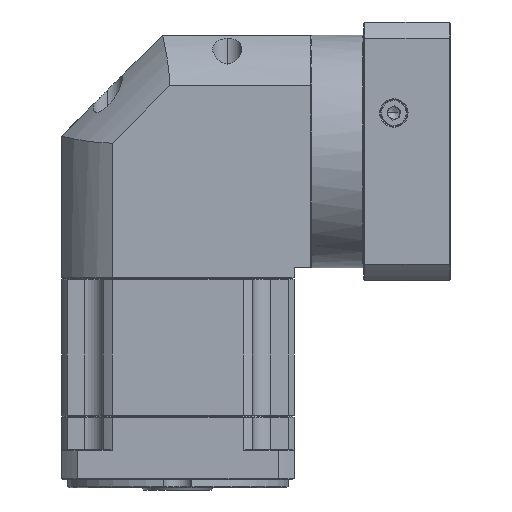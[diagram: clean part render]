
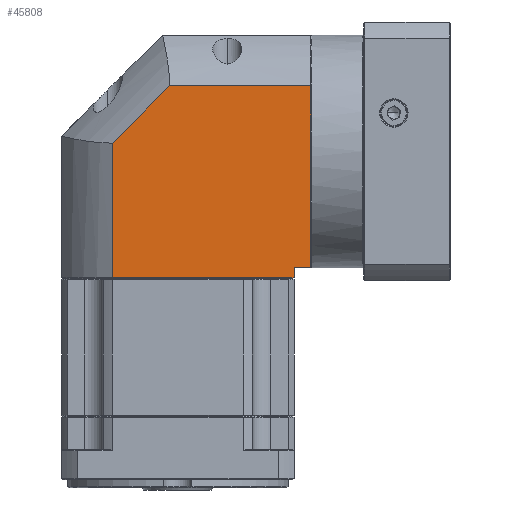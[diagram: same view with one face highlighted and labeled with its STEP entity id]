
A CAD part, front view. The second image highlights one B-rep face of the part: STEP entity #45808.
In plain terms, the highlighted planar face has unit normal (0, -1, 0).
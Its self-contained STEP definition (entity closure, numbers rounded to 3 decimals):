
#639 = DIRECTION ( 'NONE',  ( -1., 0., 0. ) ) ;
#656 = CARTESIAN_POINT ( 'NONE',  ( 89.513, -3.918, -58.454 ) ) ;
#1076 = EDGE_LOOP ( 'NONE', ( #61395, #128727, #119360, #108844, #80821, #32642, #26331 ) ) ;
#5827 = DIRECTION ( 'NONE',  ( 0.707, 0., 0.707 ) ) ;
#6359 = VECTOR ( 'NONE', #9987, 1000. ) ;
#6615 = AXIS2_PLACEMENT_3D ( 'NONE', #127625, #25261, #35049 ) ;
#7408 = VECTOR ( 'NONE', #100441, 1000. ) ;
#7446 = DIRECTION ( 'NONE',  ( 1., 0., 0. ) ) ;
#9987 = DIRECTION ( 'NONE',  ( 0., 0., 1. ) ) ;
#19416 = CARTESIAN_POINT ( 'NONE',  ( -0.387, -3.918, -69.954 ) ) ;
#25261 = DIRECTION ( 'NONE',  ( 0., 1., 0. ) ) ;
#26331 = ORIENTED_EDGE ( 'NONE', *, *, #119976, .F. ) ;
#31566 = EDGE_CURVE ( 'NONE', #74852, #56359, #36732, .T. ) ;
#32642 = ORIENTED_EDGE ( 'NONE', *, *, #31566, .F. ) ;
#34956 = VECTOR ( 'NONE', #7446, 1000. ) ;
#35049 = DIRECTION ( 'NONE',  ( 1., 0., 0. ) ) ;
#35138 = LINE ( 'NONE', #109955, #108590 ) ;
#36732 = LINE ( 'NONE', #19416, #6359 ) ;
#44761 = DIRECTION ( 'NONE',  ( 0., 0., -1. ) ) ;
#45808 = ADVANCED_FACE ( 'NONE', ( #47804 ), #66288, .F. ) ;
#47334 = LINE ( 'NONE', #79905, #7408 ) ;
#47804 = FACE_OUTER_BOUND ( 'NONE', #1076, .T. ) ;
#56359 = VERTEX_POINT ( 'NONE', #127306 ) ;
#58134 = VECTOR ( 'NONE', #44761, 1000. ) ;
#60237 = EDGE_CURVE ( 'NONE', #56359, #110628, #61673, .T. ) ;
#61395 = ORIENTED_EDGE ( 'NONE', *, *, #121670, .F. ) ;
#61673 = LINE ( 'NONE', #107555, #69609 ) ;
#66288 = PLANE ( 'NONE',  #6615 ) ;
#67818 = LINE ( 'NONE', #75131, #58134 ) ;
#69609 = VECTOR ( 'NONE', #5827, 1000. ) ;
#74852 = VERTEX_POINT ( 'NONE', #125040 ) ;
#75131 = CARTESIAN_POINT ( 'NONE',  ( 97.913, -3.918, -69.954 ) ) ;
#76729 = LINE ( 'NONE', #91896, #118192 ) ;
#76878 = VERTEX_POINT ( 'NONE', #88951 ) ;
#76998 = EDGE_CURVE ( 'NONE', #114834, #76878, #67818, .T. ) ;
#79905 = CARTESIAN_POINT ( 'NONE',  ( -25.487, -3.918, -63.454 ) ) ;
#80821 = ORIENTED_EDGE ( 'NONE', *, *, #60237, .F. ) ;
#82491 = DIRECTION ( 'NONE',  ( 0., 0., -1. ) ) ;
#88951 = CARTESIAN_POINT ( 'NONE',  ( 97.913, -3.918, -58.454 ) ) ;
#91896 = CARTESIAN_POINT ( 'NONE',  ( 89.513, -3.918, -69.954 ) ) ;
#93953 = LINE ( 'NONE', #130416, #34956 ) ;
#94286 = EDGE_CURVE ( 'NONE', #110628, #114834, #93953, .T. ) ;
#98994 = VERTEX_POINT ( 'NONE', #656 ) ;
#100245 = VERTEX_POINT ( 'NONE', #113079 ) ;
#100441 = DIRECTION ( 'NONE',  ( -1., 0., 0. ) ) ;
#101678 = CARTESIAN_POINT ( 'NONE',  ( 27.951, -3.918, 31.446 ) ) ;
#107555 = CARTESIAN_POINT ( 'NONE',  ( -0.387, -3.918, 3.108 ) ) ;
#108590 = VECTOR ( 'NONE', #639, 1000. ) ;
#108844 = ORIENTED_EDGE ( 'NONE', *, *, #94286, .F. ) ;
#109955 = CARTESIAN_POINT ( 'NONE',  ( -25.487, -3.918, -58.454 ) ) ;
#110628 = VERTEX_POINT ( 'NONE', #101678 ) ;
#110673 = CARTESIAN_POINT ( 'NONE',  ( 97.913, -3.918, 31.446 ) ) ;
#113079 = CARTESIAN_POINT ( 'NONE',  ( 89.513, -3.918, -63.454 ) ) ;
#114834 = VERTEX_POINT ( 'NONE', #110673 ) ;
#118192 = VECTOR ( 'NONE', #82491, 1000. ) ;
#119360 = ORIENTED_EDGE ( 'NONE', *, *, #76998, .F. ) ;
#119976 = EDGE_CURVE ( 'NONE', #100245, #74852, #47334, .T. ) ;
#121670 = EDGE_CURVE ( 'NONE', #98994, #100245, #76729, .T. ) ;
#125040 = CARTESIAN_POINT ( 'NONE',  ( -0.387, -3.918, -63.454 ) ) ;
#126824 = EDGE_CURVE ( 'NONE', #76878, #98994, #35138, .T. ) ;
#127306 = CARTESIAN_POINT ( 'NONE',  ( -0.387, -3.918, 3.108 ) ) ;
#127625 = CARTESIAN_POINT ( 'NONE',  ( -25.487, -3.918, -69.954 ) ) ;
#128727 = ORIENTED_EDGE ( 'NONE', *, *, #126824, .F. ) ;
#130416 = CARTESIAN_POINT ( 'NONE',  ( -25.487, -3.918, 31.446 ) ) ;
